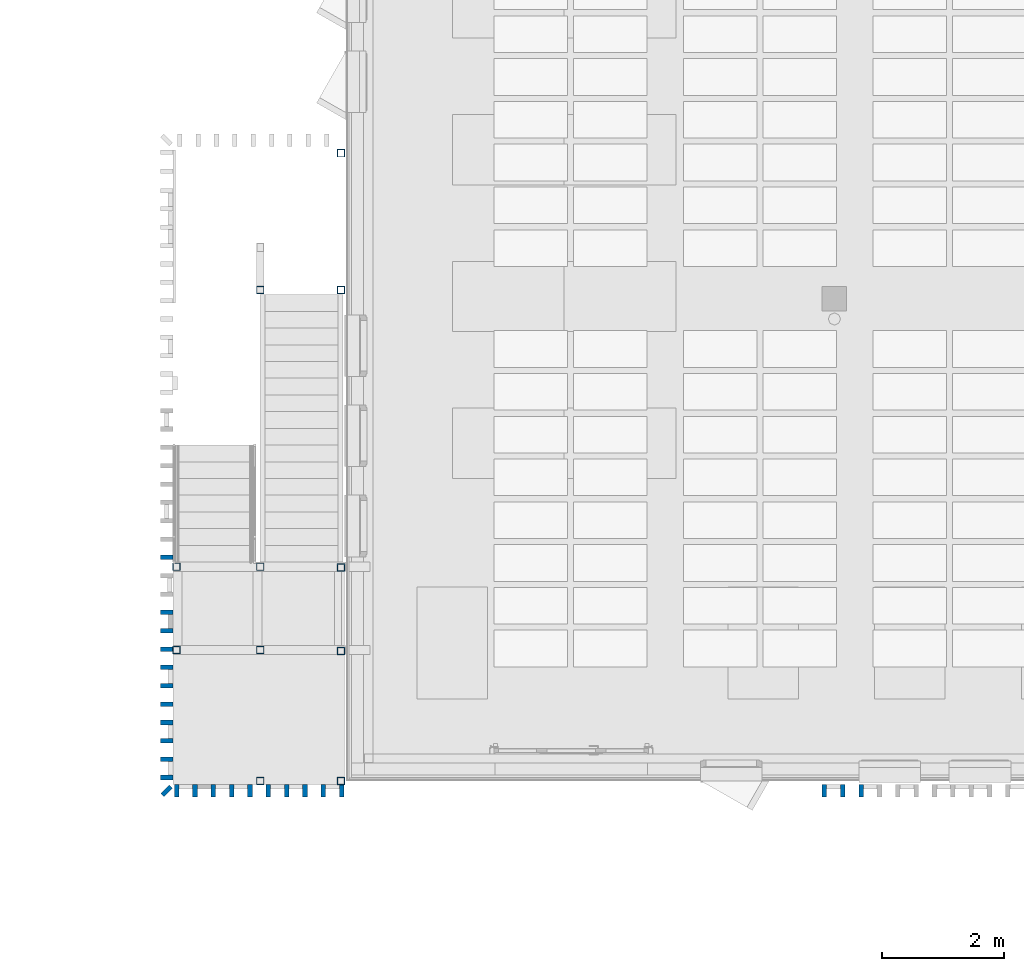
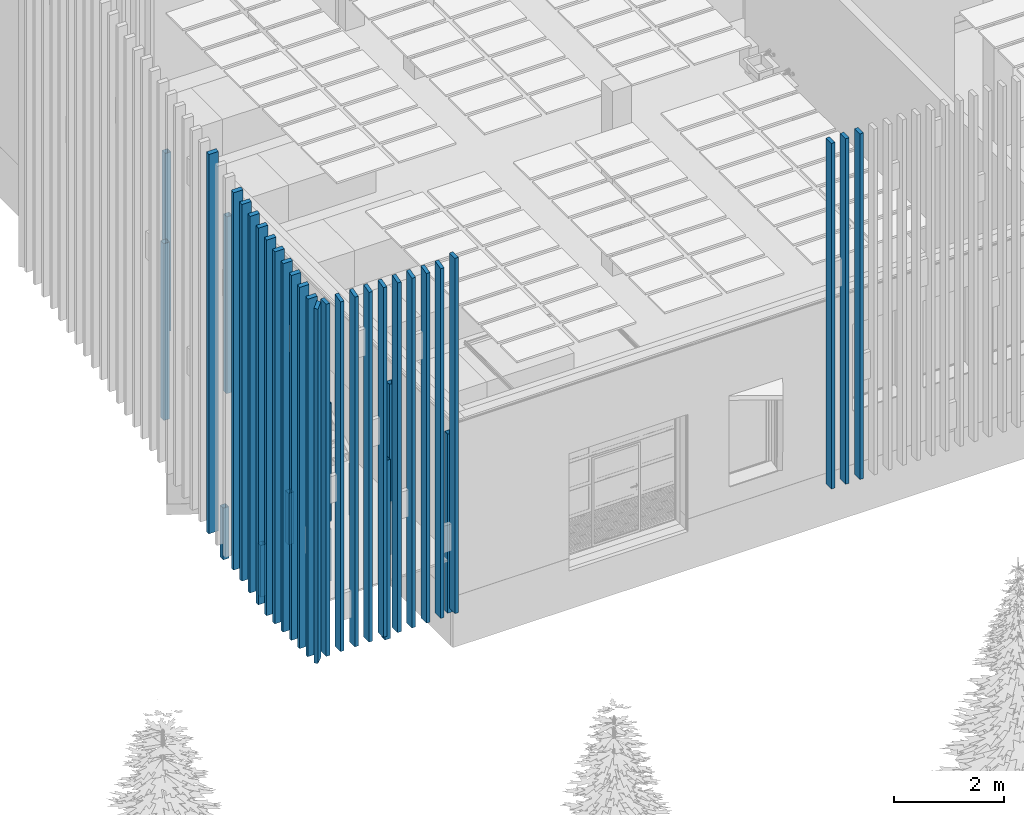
# One storey, part 1 of 301: 38 columns.
"""IFC2X3 building model written with IfcOpenShell, lengths in millimetres."""

from ifc_helpers import new_model, entity, si_unit, converted_unit, derived_unit, money_unit, direction, frame, origin_with_axes, place, context, subcontext, project, spatial, faceted_brep, source, transform, mapped, material, type_object, element, save


model = new_model("IFC2X3")

# Units and contexts
model_context = context("Model", 3, precision=0.01, world=origin_with_axes(), true_north=direction((0.0, 1.0)))
body_context = subcontext(model_context, "Body", "Model", "MODEL_VIEW")
ifc_project = project(units=[si_unit("LENGTHUNIT", "METRE", prefix="MILLI"), si_unit("AREAUNIT", "SQUARE_METRE"), si_unit("VOLUMEUNIT", "CUBIC_METRE"), converted_unit("PLANEANGLEUNIT", "DEGREE", entity("IfcPlaneAngleMeasure", 0.0174532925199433), si_unit("PLANEANGLEUNIT", "RADIAN"), dimensions=[0, 0, 0, 0, 0, 0, 0]), money_unit("EUR"), converted_unit("TIMEUNIT", "Year", entity("IfcTimeMeasure", 31557600.0), si_unit("TIMEUNIT", "SECOND"), dimensions=[0, 0, 1, 0, 0, 0, 0]), si_unit("MASSUNIT", "GRAM", prefix="KILO"), si_unit("THERMODYNAMICTEMPERATUREUNIT", "DEGREE_CELSIUS"), si_unit("LUMINOUSINTENSITYUNIT", "LUMEN"), si_unit("ENERGYUNIT", "JOULE", prefix="MEGA"), derived_unit("THERMALCONDUCTANCEUNIT", [(si_unit("POWERUNIT", "WATT"), 1), (si_unit("LENGTHUNIT", "METRE"), -1), (si_unit("THERMODYNAMICTEMPERATUREUNIT", "KELVIN"), -1)]), derived_unit("SPECIFICHEATCAPACITYUNIT", [(si_unit("ENERGYUNIT", "JOULE"), 1), (si_unit("MASSUNIT", "GRAM", prefix="KILO"), -1), (si_unit("THERMODYNAMICTEMPERATUREUNIT", "KELVIN"), -1)]), derived_unit("MASSDENSITYUNIT", [(si_unit("MASSUNIT", "GRAM", prefix="KILO"), 1), (si_unit("VOLUMEUNIT", "CUBIC_METRE"), -1)])], contexts=[model_context])

# Site, building, storey
site_placement = place(None, frame((0.0, 0.0, 8650.0), z_axis=(0.0, 0.0, 1.0), x_axis=(1.0, 0.0, 0.0)))
site = spatial("IfcSite", under=ifc_project, at=site_placement, Name="43301:001:0844", CompositionType="ELEMENT")
building_placement = place(site_placement, origin_with_axes())
building = spatial("IfcBuilding", under=site, at=building_placement, Name="Kuressaare Ametikooli tuulikute mehaanikute õppekorpus", CompositionType="ELEMENT")
storey_placement = place(building_placement, origin_with_axes())
storey = spatial("IfcBuildingStorey", under=building, at=storey_placement, Name="1.korrus", CompositionType="ELEMENT", Elevation=0.0)

# Columns
ifc_material_1 = material(Name="STEEL/S355")
column_type_1 = type_object("IfcColumnType", Name="IFC Footing Extruded", PredefinedType="NOTDEFINED")
shared_shape_1 = source(origin_with_axes(), body_context, "Body", "Brep", [
    faceted_brep([(59.99999999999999, -60.00000000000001, 1146.01999999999), (-60.00000000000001, -59.99999999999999, 1146.01999999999), (-60.00000000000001, -60.00000000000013, 0.0), (59.99999999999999, -60.00000000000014, 0.0), (60.00000000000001, 59.99999999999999, 1146.01999999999), (-59.99999999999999, 60.00000000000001, 1146.01999999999), (54.99999999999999, -55.00000000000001, 1146.01999999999), (-55.00000000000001, -54.99999999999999, 1146.01999999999), (-54.99999999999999, 55.00000000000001, 1146.01999999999), (55.00000000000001, 54.99999999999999, 1146.01999999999), (-59.99999999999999, 59.99999999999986, 0.0), (60.00000000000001, 59.99999999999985, 0.0), (54.99999999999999, -55.00000000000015, 0.0), (55.00000000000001, 54.99999999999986, 0.0), (-54.99999999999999, 54.99999999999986, 0.0), (-55.00000000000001, -55.00000000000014, 0.0)], [[[0, 1, 2, 3]], [[0, 4, 5, 1], [6, 7, 8, 9]], [[1, 5, 10, 2]], [[3, 2, 10, 11], [12, 13, 14, 15]], [[4, 0, 3, 11]], [[5, 4, 11, 10]], [[7, 6, 12, 15]], [[8, 7, 15, 14]], [[9, 8, 14, 13]], [[6, 9, 13, 12]]]),
])
for number, where, z_axis, x_axis, name in (
    (1, (87796.2273876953, 12173.83806945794, 0.0), (0.0, 0.0, 1.0), (1.0, 0.0, 0.0), "TERAS_POST"),
    (2, (85106.22662558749, 12188.83772613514, 0.0), (0.0, 0.0, 1.0), (1.0, 0.0, 0.0), "TERAS_POST"),
    (3, (85106.22662386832, 10823.83772613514, 0.0), (0.0, 0.0, 1.0), (1.0, 0.0, 0.0), "TERAS_POST"),
    (4, (87796.2273876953, 10808.83806945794, 0.0), (0.0, 0.0, 1.0), (1.0, 0.0, 0.0), "TERAS_POST"),
    (5, (86476.2273876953, 12188.83772613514, -151.1732308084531), (0.0, 0.0, 1.0), (1.0, 0.0, 0.0), "TERAS_POST"),
    (6, (86476.2273876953, 10823.83772613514, -151.1732308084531), (0.0, 0.0, 1.0), (1.0, 0.0, 0.0), "TERAS_POST"),
):
    element("IfcColumn", number, at=place(storey_placement, frame(where, z_axis=z_axis, x_axis=x_axis)), inside=storey, type_object=column_type_1, material=ifc_material_1, Name=name, context=body_context, shape_type="MappedRepresentation", body=[
        mapped(shared_shape_1, transform((0.0, 0.0, 0.0))),
    ])
shared_shape_2 = source(origin_with_axes(), body_context, "Body", "Brep", [
    faceted_brep([(59.99999999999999, -60.00000000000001, 3922.41999999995), (-60.00000000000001, -59.99999999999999, 3922.41999999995), (-60.00000000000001, -60.00000000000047, 0.0), (59.99999999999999, -60.00000000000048, 0.0), (60.00000000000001, 59.99999999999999, 3922.41999999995), (-59.99999999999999, 60.00000000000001, 3922.41999999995), (54.99999999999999, -55.00000000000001, 3922.41999999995), (-55.00000000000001, -54.99999999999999, 3922.41999999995), (-54.99999999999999, 55.00000000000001, 3922.41999999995), (55.00000000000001, 54.99999999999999, 3922.41999999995), (-59.99999999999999, 59.99999999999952, 0.0), (60.00000000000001, 59.99999999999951, 0.0), (54.99999999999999, -55.00000000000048, 0.0), (55.00000000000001, 54.99999999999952, 0.0), (-54.99999999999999, 54.99999999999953, 0.0), (-55.00000000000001, -55.00000000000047, 0.0)], [[[0, 1, 2, 3]], [[0, 4, 5, 1], [6, 7, 8, 9]], [[1, 5, 10, 2]], [[3, 2, 10, 11], [12, 13, 14, 15]], [[4, 0, 3, 11]], [[5, 4, 11, 10]], [[7, 6, 12, 15]], [[8, 7, 15, 14]], [[9, 8, 14, 13]], [[6, 9, 13, 12]]]),
])
for number, where, z_axis, x_axis, name in (
    (7, (87796.2273876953, 16713.83806945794, 0.0), (0.0, 0.0, 1.0), (1.0, 0.0, 0.0), "TERAS_POST"),
    (8, (86476.2273876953, 16713.83806945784, -132.41999999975), (0.0, 0.0, 1.0), (1.0, 0.0, 0.0), "TERAS_POST"),
):
    element("IfcColumn", number, at=place(storey_placement, frame(where, z_axis=z_axis, x_axis=x_axis)), inside=storey, type_object=column_type_1, material=ifc_material_1, Name=name, context=body_context, shape_type="MappedRepresentation", body=[
        mapped(shared_shape_2, transform((0.0, 0.0, 0.0))),
    ])
shared_shape_3 = source(origin_with_axes(), body_context, "Body", "Brep", [
    faceted_brep([(59.99999999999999, -60.00000000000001, 3972.4199999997), (-60.00000000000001, -59.99999999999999, 3972.4199999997), (-60.00000000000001, -60.00000000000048, -3.002043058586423e-10), (59.99999999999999, -60.00000000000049, -3.002043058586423e-10), (60.00000000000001, 59.99999999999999, 3972.4199999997), (-59.99999999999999, 60.00000000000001, 3972.4199999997), (54.99999999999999, -55.00000000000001, 3972.4199999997), (-55.00000000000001, -54.99999999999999, 3972.4199999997), (-54.99999999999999, 55.00000000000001, 3972.4199999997), (55.00000000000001, 54.99999999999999, 3972.4199999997), (-59.99999999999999, 59.99999999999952, -3.002043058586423e-10), (60.00000000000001, 59.9999999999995, -3.002043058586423e-10), (54.99999999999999, -55.00000000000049, -3.002043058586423e-10), (55.00000000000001, 54.99999999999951, -3.002043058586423e-10), (-54.99999999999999, 54.99999999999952, -3.002043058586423e-10), (-55.00000000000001, -55.00000000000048, -3.002043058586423e-10)], [[[0, 1, 2, 3]], [[0, 4, 5, 1], [6, 7, 8, 9]], [[1, 5, 10, 2]], [[3, 2, 10, 11], [12, 13, 14, 15]], [[4, 0, 3, 11]], [[5, 4, 11, 10]], [[7, 6, 12, 15]], [[8, 7, 15, 14]], [[9, 8, 14, 13]], [[6, 9, 13, 12]]]),
])
for number, where, z_axis, x_axis, name in (
    (9, (87796.2273876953, 8683.838538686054, 0.0), (0.0, 0.0, 1.0), (1.0, 0.0, 0.0), "TERAS_POST"),
    (10, (86476.2273876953, 8683.838538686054, -132.4199999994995), (0.0, 0.0, 1.0), (1.0, 0.0, 0.0), "TERAS_POST"),
    (11, (87796.2273876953, 18953.07806945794, 0.0), (0.0, 0.0, 1.0), (1.0, 0.0, 0.0), "TERAS_POST"),
):
    element("IfcColumn", number, at=place(storey_placement, frame(where, z_axis=z_axis, x_axis=x_axis)), inside=storey, type_object=column_type_1, material=ifc_material_1, Name=name, context=body_context, shape_type="MappedRepresentation", body=[
        mapped(shared_shape_3, transform((0.0, 0.0, 0.0))),
    ])
ifc_material_2 = material(Name="GENEERILINE - KONSTRUKTRIOON")
column_type_2 = type_object("IfcColumnType", Name="GENEERILINE - KONSTRUKTRIOON 200 x 75", PredefinedType="NOTDEFINED")
column_1_placement = place(storey_placement, frame((95705.56858359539, 8523.838490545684, 100.0000000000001), z_axis=(0.0, 0.0, 1.0), x_axis=(0.0, -1.0, 0.0)))
element("IfcColumn", 12, at=column_1_placement, inside=storey, type_object=column_type_2, material=ifc_material_2, Name="Varjestus_viltu", context=body_context, shape_type="Brep", body=[
    faceted_brep([(-99.99999999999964, -37.50000000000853, 7664.185442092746), (-99.99999999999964, -37.50000000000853, 0.0), (99.99999999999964, -37.50000000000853, 0.0), (99.99999999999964, -37.50000000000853, 7664.185442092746), (-99.99999999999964, 37.49999999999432, 7670.74709185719), (-99.99999999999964, 37.49999999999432, 0.0), (99.99999999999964, 37.49999999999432, 0.0), (99.99999999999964, 37.49999999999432, 7670.74709185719)], [[[0, 1, 2, 3]], [[4, 5, 1, 0]], [[2, 1, 5, 6]], [[3, 2, 6, 7]], [[4, 0, 3, 7]], [[7, 6, 5, 4]]]),
])
column_2_placement = place(storey_placement, frame((87808.75964555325, 8523.838538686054, 100.0000000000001), z_axis=(0.0, 0.0, 1.0), x_axis=(0.0, -1.0, 0.0)))
element("IfcColumn", 13, at=column_2_placement, inside=storey, type_object=column_type_2, material=ifc_material_2, Name="Varjestus_viltu", context=body_context, shape_type="Brep", body=[
    faceted_brep([(-99.99999999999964, -37.50000000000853, 7881.100870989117), (-99.99999999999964, -37.50000000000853, 0.0), (99.99999999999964, -37.50000000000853, 0.0), (99.99999999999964, -37.50000000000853, 7881.100870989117), (-99.99999999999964, 37.49999999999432, 7887.662520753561), (-99.99999999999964, 37.49999999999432, 0.0), (99.99999999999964, 37.49999999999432, 0.0), (99.99999999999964, 37.49999999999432, 7887.662520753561)], [[[0, 1, 2, 3]], [[4, 5, 1, 0]], [[2, 1, 5, 6]], [[3, 2, 6, 7]], [[4, 0, 3, 7]], [[7, 6, 5, 4]]]),
])
column_3_placement = place(storey_placement, frame((87508.75964555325, 8523.838538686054, 100.0000000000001), z_axis=(0.0, 0.0, 1.0), x_axis=(0.0, -1.0, 0.0)))
element("IfcColumn", 14, at=column_3_placement, inside=storey, type_object=column_type_2, material=ifc_material_2, Name="Varjestus_viltu", context=body_context, shape_type="Brep", body=[
    faceted_brep([(-99.99999999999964, -37.50000000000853, 7810.350083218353), (-99.99999999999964, 37.49999999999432, 7810.350080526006), (-99.99999999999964, 37.49999999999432, 0.0), (-99.99999999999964, -37.50000000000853, 0.0), (99.99999999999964, 37.49999999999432, 7756.760242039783), (99.99999999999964, -37.50000000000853, 7756.76024473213), (99.99999999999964, 37.49999999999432, 0.0), (99.99999999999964, -37.50000000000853, 0.0)], [[[0, 1, 2, 3]], [[4, 1, 0, 5]], [[1, 4, 6, 2]], [[6, 7, 3, 2]], [[5, 0, 3, 7]], [[4, 5, 7, 6]]]),
])
column_4_placement = place(storey_placement, frame((84943.45380628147, 8522.112257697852, 0.0), z_axis=(0.0, 0.0, 1.0), x_axis=(-0.7071067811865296, -0.7071067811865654, 0.0)))
element("IfcColumn", 15, at=column_4_placement, inside=storey, type_object=column_type_2, material=ifc_material_2, Name="Varjestus_viltu", context=body_context, shape_type="Brep", body=[
    faceted_brep([(-99.99999999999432, -37.49999999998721, 7909.144642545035), (-99.99999999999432, 37.50000000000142, 7894.934488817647), (-99.99999999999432, 37.50000000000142, 0.0), (-99.99999999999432, -37.49999999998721, 0.0), (99.99999999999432, 37.50000000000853, 7857.040755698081), (100.0000000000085, -37.49999999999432, 7871.250909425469), (99.99999999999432, 37.50000000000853, 0.0), (100.0000000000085, -37.49999999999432, 0.0)], [[[0, 1, 2, 3]], [[4, 1, 0, 5]], [[1, 4, 6, 2]], [[6, 7, 3, 2]], [[5, 0, 3, 7]], [[4, 5, 7, 6]]]),
])
column_5_placement = place(storey_placement, frame((84946.22662386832, 12340.41808387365, 542.6121992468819), z_axis=(0.0, 0.0, 1.0), x_axis=(-1.0, 0.0, 0.0)))
element("IfcColumn", 16, at=column_5_placement, inside=storey, type_object=column_type_2, material=ifc_material_2, Name="Varjestus_viltu", context=body_context, shape_type="Brep", body=[
    faceted_brep([(100.0000000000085, 37.49999999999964, 8414.133772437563), (100.0000000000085, 37.49999999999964, 0.0), (-99.99999999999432, 37.49999999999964, 0.0), (-99.99999999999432, 37.49999999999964, 8414.133772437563), (100.0000000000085, -37.49999999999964, 8434.229961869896), (100.0000000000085, -37.49999999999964, 0.0), (-99.99999999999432, -37.49999999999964, 0.0), (-99.99999999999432, -37.49999999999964, 8434.229961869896)], [[[0, 1, 2, 3]], [[4, 5, 1, 0]], [[2, 1, 5, 6]], [[3, 2, 6, 7]], [[4, 0, 3, 7]], [[7, 6, 5, 4]]]),
])
column_6_placement = place(storey_placement, frame((84946.22662386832, 10540.41808387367, 60.29024436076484), z_axis=(0.0, 0.0, 1.0), x_axis=(-1.0, 0.0, 0.0)))
element("IfcColumn", 17, at=column_6_placement, inside=storey, type_object=column_type_2, material=ifc_material_2, Name="Varjestus_viltu", context=body_context, shape_type="Brep", body=[
    faceted_brep([(100.0000000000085, -37.49999999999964, 8373.65396917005), (-99.99999999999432, -37.49999999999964, 8373.653961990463), (-99.99999999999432, -37.49999999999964, 0.0), (100.0000000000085, -37.49999999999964, 0.0), (-99.99999999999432, 37.49999999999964, 8353.557772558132), (100.0000000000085, 37.49999999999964, 8353.55777973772), (-99.99999999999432, 37.49999999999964, 0.0), (100.0000000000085, 37.49999999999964, 0.0)], [[[0, 1, 2, 3]], [[4, 1, 0, 5]], [[1, 4, 6, 2]], [[2, 6, 7, 3]], [[5, 0, 3, 7]], [[4, 5, 7, 6]]]),
])
column_7_placement = place(storey_placement, frame((84946.22662386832, 10840.41808387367, 140.6772368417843), z_axis=(0.0, 0.0, 1.0), x_axis=(-1.0, 0.0, 0.0)))
element("IfcColumn", 18, at=column_7_placement, inside=storey, type_object=column_type_2, material=ifc_material_2, Name="Varjestus_viltu", context=body_context, shape_type="Brep", body=[
    faceted_brep([(100.0000000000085, -37.49999999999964, 8373.651734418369), (-99.99999999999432, -37.49999999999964, 8373.65172723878), (-99.99999999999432, -37.49999999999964, 0.0), (100.0000000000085, -37.49999999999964, 0.0), (-99.99999999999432, 37.49999999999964, 8353.555537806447), (100.0000000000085, 37.49999999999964, 8353.555544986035), (-99.99999999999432, 37.49999999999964, 0.0), (100.0000000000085, 37.49999999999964, 0.0)], [[[0, 1, 2, 3]], [[4, 1, 0, 5]], [[1, 4, 6, 2]], [[2, 6, 7, 3]], [[5, 0, 3, 7]], [[4, 5, 7, 6]]]),
])
column_8_placement = place(storey_placement, frame((84946.22662386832, 11140.41808387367, 221.0642293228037), z_axis=(0.0, 0.0, 1.0), x_axis=(-1.0, 0.0, 0.0)))
element("IfcColumn", 19, at=column_8_placement, inside=storey, type_object=column_type_2, material=ifc_material_2, Name="Varjestus_viltu", context=body_context, shape_type="Brep", body=[
    faceted_brep([(100.0000000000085, -37.49999999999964, 8373.649499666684), (-99.99999999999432, -37.49999999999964, 8373.649492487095), (-99.99999999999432, -37.49999999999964, 0.0), (100.0000000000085, -37.49999999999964, 0.0), (-99.99999999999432, 37.49999999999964, 8353.553303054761), (100.0000000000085, 37.49999999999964, 8353.553310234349), (-99.99999999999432, 37.49999999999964, 0.0), (100.0000000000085, 37.49999999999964, 0.0)], [[[0, 1, 2, 3]], [[4, 1, 0, 5]], [[1, 4, 6, 2]], [[2, 6, 7, 3]], [[5, 0, 3, 7]], [[4, 5, 7, 6]]]),
])
column_9_placement = place(storey_placement, frame((84946.22662386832, 11440.41808387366, 285.5243114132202), z_axis=(0.0, 0.0, 1.0), x_axis=(-1.0, 0.0, 0.0)))
element("IfcColumn", 20, at=column_9_placement, inside=storey, type_object=column_type_2, material=ifc_material_2, Name="Varjestus_viltu", context=body_context, shape_type="Brep", body=[
    faceted_brep([(100.0000000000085, -37.49999999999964, 8389.574175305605), (-99.99999999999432, -37.49999999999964, 8389.574168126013), (-99.99999999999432, -37.49999999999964, 0.0), (100.0000000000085, -37.49999999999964, 0.0), (-99.99999999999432, 37.49999999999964, 8369.477978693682), (100.0000000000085, 37.49999999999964, 8369.477985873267), (-99.99999999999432, 37.49999999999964, 0.0), (100.0000000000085, 37.49999999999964, 0.0)], [[[0, 1, 2, 3]], [[4, 1, 0, 5]], [[1, 4, 6, 2]], [[2, 6, 7, 3]], [[5, 0, 3, 7]], [[4, 5, 7, 6]]]),
])
column_10_placement = place(storey_placement, frame((84946.22662386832, 9940.418083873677, 0.0), z_axis=(0.0, 0.0, 1.0), x_axis=(-1.0, 0.0, 0.0)))
element("IfcColumn", 21, at=column_10_placement, inside=storey, type_object=column_type_2, material=ifc_material_2, Name="Varjestus_viltu", context=body_context, shape_type="Brep", body=[
    faceted_brep([(100.0000000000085, -37.49999999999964, 8273.174698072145), (-99.99999999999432, -37.49999999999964, 8273.174690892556), (-99.99999999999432, -37.49999999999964, 0.0), (100.0000000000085, -37.49999999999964, 0.0), (-99.99999999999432, 37.49999999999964, 8253.078501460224), (100.0000000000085, 37.49999999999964, 8253.07850863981), (-99.99999999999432, 37.49999999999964, 0.0), (100.0000000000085, 37.49999999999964, 0.0)], [[[0, 1, 2, 3]], [[4, 1, 0, 5]], [[1, 4, 6, 2]], [[2, 6, 7, 3]], [[5, 0, 3, 7]], [[4, 5, 7, 6]]]),
])
column_11_placement = place(storey_placement, frame((84946.22662386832, 10240.41808387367, 0.0), z_axis=(0.0, 0.0, 1.0), x_axis=(-1.0, 0.0, 0.0)))
element("IfcColumn", 22, at=column_11_placement, inside=storey, type_object=column_type_2, material=ifc_material_2, Name="Varjestus_viltu", context=body_context, shape_type="Brep", body=[
    faceted_brep([(100.0000000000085, -37.49999999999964, 8353.559455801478), (-99.99999999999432, -37.49999999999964, 8353.559448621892), (-99.99999999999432, -37.49999999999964, 0.0), (100.0000000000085, -37.49999999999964, 0.0), (-99.99999999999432, 37.49999999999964, 8333.46325918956), (100.0000000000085, 37.49999999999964, 8333.463266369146), (-99.99999999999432, 37.49999999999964, 0.0), (100.0000000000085, 37.49999999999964, 0.0)], [[[0, 1, 2, 3]], [[4, 1, 0, 5]], [[1, 4, 6, 2]], [[2, 6, 7, 3]], [[5, 0, 3, 7]], [[4, 5, 7, 6]]]),
])
column_12_placement = place(storey_placement, frame((84946.22662386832, 9340.418083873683, 0.0), z_axis=(0.0, 0.0, 1.0), x_axis=(-1.0, 0.0, 0.0)))
element("IfcColumn", 23, at=column_12_placement, inside=storey, type_object=column_type_2, material=ifc_material_2, Name="Varjestus_viltu", context=body_context, shape_type="Brep", body=[
    faceted_brep([(100.0000000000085, -37.49999999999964, 8112.405182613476), (-99.99999999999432, -37.49999999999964, 8112.405175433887), (-99.99999999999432, -37.49999999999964, 0.0), (100.0000000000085, -37.49999999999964, 0.0), (-99.99999999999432, 37.49999999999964, 8092.308986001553), (100.0000000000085, 37.49999999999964, 8092.308993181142), (-99.99999999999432, 37.49999999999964, 0.0), (100.0000000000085, 37.49999999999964, 0.0)], [[[0, 1, 2, 3]], [[4, 1, 0, 5]], [[1, 4, 6, 2]], [[2, 6, 7, 3]], [[5, 0, 3, 7]], [[4, 5, 7, 6]]]),
])
column_13_placement = place(storey_placement, frame((84946.22662386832, 9640.41808387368, 0.0), z_axis=(0.0, 0.0, 1.0), x_axis=(-1.0, 0.0, 0.0)))
element("IfcColumn", 24, at=column_13_placement, inside=storey, type_object=column_type_2, material=ifc_material_2, Name="Varjestus_viltu", context=body_context, shape_type="Brep", body=[
    faceted_brep([(100.0000000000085, -37.49999999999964, 8192.789940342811), (-99.99999999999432, -37.49999999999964, 8192.789933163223), (-99.99999999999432, -37.49999999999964, 0.0), (100.0000000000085, -37.49999999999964, 0.0), (-99.99999999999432, 37.49999999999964, 8172.693743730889), (100.0000000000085, 37.49999999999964, 8172.693750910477), (-99.99999999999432, 37.49999999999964, 0.0), (100.0000000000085, 37.49999999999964, 0.0)], [[[0, 1, 2, 3]], [[4, 1, 0, 5]], [[1, 4, 6, 2]], [[2, 6, 7, 3]], [[5, 0, 3, 7]], [[4, 5, 7, 6]]]),
])
column_14_placement = place(storey_placement, frame((84946.22662386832, 8740.418083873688, 0.0), z_axis=(0.0, 0.0, 1.0), x_axis=(-1.0, 0.0, 0.0)))
element("IfcColumn", 25, at=column_14_placement, inside=storey, type_object=column_type_2, material=ifc_material_2, Name="Varjestus_viltu", context=body_context, shape_type="Brep", body=[
    faceted_brep([(100.0000000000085, -37.49999999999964, 7951.635667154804), (-99.99999999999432, -37.49999999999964, 7951.635659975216), (-99.99999999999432, -37.49999999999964, 0.0), (100.0000000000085, -37.49999999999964, 0.0), (-99.99999999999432, 37.49999999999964, 7931.539470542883), (100.0000000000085, 37.49999999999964, 7931.53947772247), (-99.99999999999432, 37.49999999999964, 0.0), (100.0000000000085, 37.49999999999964, 0.0)], [[[0, 1, 2, 3]], [[4, 1, 0, 5]], [[1, 4, 6, 2]], [[2, 6, 7, 3]], [[5, 0, 3, 7]], [[4, 5, 7, 6]]]),
])
column_15_placement = place(storey_placement, frame((84946.22662386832, 9040.418083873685, 0.0), z_axis=(0.0, 0.0, 1.0), x_axis=(-1.0, 0.0, 0.0)))
element("IfcColumn", 26, at=column_15_placement, inside=storey, type_object=column_type_2, material=ifc_material_2, Name="Varjestus_viltu", context=body_context, shape_type="Brep", body=[
    faceted_brep([(100.0000000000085, -37.49999999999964, 8032.020424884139), (-99.99999999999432, -37.49999999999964, 8032.020417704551), (-99.99999999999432, -37.49999999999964, 0.0), (100.0000000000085, -37.49999999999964, 0.0), (-99.99999999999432, 37.49999999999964, 8011.92422827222), (100.0000000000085, 37.49999999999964, 8011.924235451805), (-99.99999999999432, 37.49999999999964, 0.0), (100.0000000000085, 37.49999999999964, 0.0)], [[[0, 1, 2, 3]], [[4, 1, 0, 5]], [[1, 4, 6, 2]], [[2, 6, 7, 3]], [[5, 0, 3, 7]], [[4, 5, 7, 6]]]),
])
column_16_placement = place(storey_placement, frame((85408.75964555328, 8523.838538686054, 99.99999999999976), z_axis=(0.0, 0.0, 1.0), x_axis=(0.0, -1.0, 0.0)))
element("IfcColumn", 27, at=column_16_placement, inside=storey, type_object=column_type_2, material=ifc_material_2, Name="Varjestus_viltu", context=body_context, shape_type="Brep", body=[
    faceted_brep([(-99.99999999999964, -37.50000000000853, 7810.35015860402), (-99.99999999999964, 37.49999999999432, 7810.350155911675), (-99.99999999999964, 37.49999999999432, 0.0), (-99.99999999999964, -37.50000000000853, 0.0), (99.99999999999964, 37.49999999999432, 7756.760317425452), (99.99999999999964, -37.50000000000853, 7756.760320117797), (99.99999999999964, 37.49999999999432, 0.0), (99.99999999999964, -37.50000000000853, 0.0)], [[[0, 1, 2, 3]], [[4, 1, 0, 5]], [[1, 4, 6, 2]], [[6, 7, 3, 2]], [[5, 0, 3, 7]], [[4, 5, 7, 6]]]),
])
column_17_placement = place(storey_placement, frame((85708.75964555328, 8523.838538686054, 100.0000000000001), z_axis=(0.0, 0.0, 1.0), x_axis=(0.0, -1.0, 0.0)))
element("IfcColumn", 28, at=column_17_placement, inside=storey, type_object=column_type_2, material=ifc_material_2, Name="Varjestus_viltu", context=body_context, shape_type="Brep", body=[
    faceted_brep([(-99.99999999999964, -37.50000000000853, 7810.35014783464), (-99.99999999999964, 37.49999999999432, 7810.350145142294), (-99.99999999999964, 37.49999999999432, 0.0), (-99.99999999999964, -37.50000000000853, 0.0), (99.99999999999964, 37.49999999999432, 7756.76030665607), (99.99999999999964, -37.50000000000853, 7756.760309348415), (99.99999999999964, 37.49999999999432, 0.0), (99.99999999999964, -37.50000000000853, 0.0)], [[[0, 1, 2, 3]], [[4, 1, 0, 5]], [[1, 4, 6, 2]], [[6, 7, 3, 2]], [[5, 0, 3, 7]], [[4, 5, 7, 6]]]),
])
column_18_placement = place(storey_placement, frame((86008.75964555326, 8523.838538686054, 100.0000000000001), z_axis=(0.0, 0.0, 1.0), x_axis=(0.0, -1.0, 0.0)))
element("IfcColumn", 29, at=column_18_placement, inside=storey, type_object=column_type_2, material=ifc_material_2, Name="Varjestus_viltu", context=body_context, shape_type="Brep", body=[
    faceted_brep([(-99.99999999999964, -37.50000000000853, 7810.350137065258), (-99.99999999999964, 37.49999999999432, 7810.350134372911), (-99.99999999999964, 37.49999999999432, 0.0), (-99.99999999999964, -37.50000000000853, 0.0), (99.99999999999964, 37.49999999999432, 7756.760295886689), (99.99999999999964, -37.50000000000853, 7756.760298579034), (99.99999999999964, 37.49999999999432, 0.0), (99.99999999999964, -37.50000000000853, 0.0)], [[[0, 1, 2, 3]], [[4, 1, 0, 5]], [[1, 4, 6, 2]], [[6, 7, 3, 2]], [[5, 0, 3, 7]], [[4, 5, 7, 6]]]),
])
column_19_placement = place(storey_placement, frame((86608.75964555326, 8523.838538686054, 100.0000000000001), z_axis=(0.0, 0.0, 1.0), x_axis=(0.0, -1.0, 0.0)))
element("IfcColumn", 30, at=column_19_placement, inside=storey, type_object=column_type_2, material=ifc_material_2, Name="Varjestus_viltu", context=body_context, shape_type="Brep", body=[
    faceted_brep([(-99.99999999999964, -37.50000000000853, 7810.350115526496), (-99.99999999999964, 37.49999999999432, 7810.35011283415), (-99.99999999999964, 37.49999999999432, 0.0), (-99.99999999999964, -37.50000000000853, 0.0), (99.99999999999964, 37.49999999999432, 7756.760274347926), (99.99999999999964, -37.50000000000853, 7756.760277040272), (99.99999999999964, 37.49999999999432, 0.0), (99.99999999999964, -37.50000000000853, 0.0)], [[[0, 1, 2, 3]], [[4, 1, 0, 5]], [[1, 4, 6, 2]], [[6, 7, 3, 2]], [[5, 0, 3, 7]], [[4, 5, 7, 6]]]),
])
column_20_placement = place(storey_placement, frame((86308.75964555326, 8523.838538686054, 99.99999999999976), z_axis=(0.0, 0.0, 1.0), x_axis=(0.0, -1.0, 0.0)))
element("IfcColumn", 31, at=column_20_placement, inside=storey, type_object=column_type_2, material=ifc_material_2, Name="Varjestus_viltu", context=body_context, shape_type="Brep", body=[
    faceted_brep([(-99.99999999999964, -37.50000000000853, 7810.350126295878), (-99.99999999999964, 37.49999999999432, 7810.350123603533), (-99.99999999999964, 37.49999999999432, 0.0), (-99.99999999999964, -37.50000000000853, 0.0), (99.99999999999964, 37.49999999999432, 7756.760285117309), (99.99999999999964, -37.50000000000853, 7756.760287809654), (99.99999999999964, 37.49999999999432, 0.0), (99.99999999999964, -37.50000000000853, 0.0)], [[[0, 1, 2, 3]], [[4, 1, 0, 5]], [[1, 4, 6, 2]], [[6, 7, 3, 2]], [[5, 0, 3, 7]], [[4, 5, 7, 6]]]),
])
column_21_placement = place(storey_placement, frame((86908.75964555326, 8523.838538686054, 100.0000000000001), z_axis=(0.0, 0.0, 1.0), x_axis=(0.0, -1.0, 0.0)))
element("IfcColumn", 32, at=column_21_placement, inside=storey, type_object=column_type_2, material=ifc_material_2, Name="Varjestus_viltu", context=body_context, shape_type="Brep", body=[
    faceted_brep([(-99.99999999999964, -37.50000000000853, 7810.350104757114), (-99.99999999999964, 37.49999999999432, 7810.35010206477), (-99.99999999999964, 37.49999999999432, 0.0), (-99.99999999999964, -37.50000000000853, 0.0), (99.99999999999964, 37.49999999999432, 7756.760263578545), (99.99999999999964, -37.50000000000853, 7756.76026627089), (99.99999999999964, 37.49999999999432, 0.0), (99.99999999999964, -37.50000000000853, 0.0)], [[[0, 1, 2, 3]], [[4, 1, 0, 5]], [[1, 4, 6, 2]], [[6, 7, 3, 2]], [[5, 0, 3, 7]], [[4, 5, 7, 6]]]),
])
column_22_placement = place(storey_placement, frame((87208.75964555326, 8523.838538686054, 100.0000000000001), z_axis=(0.0, 0.0, 1.0), x_axis=(0.0, -1.0, 0.0)))
element("IfcColumn", 33, at=column_22_placement, inside=storey, type_object=column_type_2, material=ifc_material_2, Name="Varjestus_viltu", context=body_context, shape_type="Brep", body=[
    faceted_brep([(-99.99999999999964, -37.50000000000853, 7810.350093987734), (-99.99999999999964, 37.49999999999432, 7810.350091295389), (-99.99999999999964, 37.49999999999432, 0.0), (-99.99999999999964, -37.50000000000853, 0.0), (99.99999999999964, 37.49999999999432, 7756.760252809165), (99.99999999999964, -37.50000000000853, 7756.760255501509), (99.99999999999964, 37.49999999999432, 0.0), (99.99999999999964, -37.50000000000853, 0.0)], [[[0, 1, 2, 3]], [[4, 1, 0, 5]], [[1, 4, 6, 2]], [[6, 7, 3, 2]], [[5, 0, 3, 7]], [[4, 5, 7, 6]]]),
])
for number, where, z_axis, x_axis in (
    (34, (96005.56858359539, 8523.838490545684, 100.0000000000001), (0.0, 0.0, 1.0), (0.0, -1.0, 0.0)),
    (35, (96305.56858359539, 8523.838490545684, 100.0000000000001), (0.0, 0.0, 1.0), (0.0, -1.0, 0.0)),
):
    element("IfcColumn", number, at=place(storey_placement, frame(where, z_axis=z_axis, x_axis=x_axis)), inside=storey, type_object=column_type_2, material=ifc_material_2, Name="Varjestus_viltu", context=body_context, shape_type="Brep", body=[
        faceted_brep([(-99.99999999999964, -37.50000000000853, 7664.185442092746), (-99.99999999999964, -37.50000000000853, 0.0), (99.99999999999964, -37.50000000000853, 0.0), (99.99999999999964, -37.50000000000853, 7664.185442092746), (-99.99999999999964, 37.49999999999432, 7670.74709185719), (-99.99999999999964, 37.49999999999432, 0.0), (99.99999999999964, 37.49999999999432, 0.0), (99.99999999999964, 37.49999999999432, 7670.74709185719)], [[[0, 1, 2, 3]], [[4, 5, 1, 0]], [[2, 1, 5, 6]], [[3, 2, 6, 7]], [[4, 0, 3, 7]], [[7, 6, 5, 4]]]),
    ])
column_23_placement = place(storey_placement, frame((85108.75964555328, 8523.838538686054, 99.99999999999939), z_axis=(0.0, 0.0, 1.0), x_axis=(0.0, -1.0, 0.0)))
element("IfcColumn", 36, at=column_23_placement, inside=storey, type_object=column_type_2, material=ifc_material_2, Name="Varjestus_viltu", context=body_context, shape_type="Brep", body=[
    faceted_brep([(-99.99999999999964, -37.50000000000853, 7808.798350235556), (-99.99999999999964, -37.50000000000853, 0.0), (99.99999999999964, -37.50000000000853, 0.0), (99.99999999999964, -37.50000000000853, 7808.798350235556), (-99.99999999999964, 37.49999999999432, 7815.36), (-99.99999999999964, 37.49999999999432, 0.0), (99.99999999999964, 37.49999999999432, 0.0), (99.99999999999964, 37.49999999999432, 7815.36)], [[[0, 1, 2, 3]], [[4, 5, 1, 0]], [[2, 1, 5, 6]], [[3, 2, 6, 7]], [[4, 0, 3, 7]], [[7, 6, 5, 4]]]),
])
column_24_placement = place(storey_placement, frame((86476.2273876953, 10823.83772613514, 1161.18000000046), z_axis=(0.0, 0.0, 1.0), x_axis=(1.0, 0.0, 0.0)))
element("IfcColumn", 37, at=column_24_placement, inside=storey, type_object=column_type_1, material=ifc_material_1, Name="TERAS_POST", context=body_context, shape_type="Brep", body=[
    faceted_brep([(59.99999999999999, -60.00000000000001, 2628.81999999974), (-60.00000000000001, -59.99999999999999, 2628.81999999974), (-60.00000000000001, -60.00000000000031, -2.602362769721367e-10), (59.99999999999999, -60.00000000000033, -2.602362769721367e-10), (60.00000000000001, 59.99999999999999, 2628.81999999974), (-59.99999999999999, 60.00000000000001, 2628.81999999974), (54.99999999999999, -55.00000000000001, 2628.81999999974), (-55.00000000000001, -54.99999999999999, 2628.81999999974), (-54.99999999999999, 55.00000000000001, 2628.81999999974), (55.00000000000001, 54.99999999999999, 2628.81999999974), (-59.99999999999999, 59.99999999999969, -2.602362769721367e-10), (60.00000000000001, 59.99999999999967, -2.602362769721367e-10), (54.99999999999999, -55.00000000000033, -2.602362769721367e-10), (55.00000000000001, 54.99999999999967, -2.602362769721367e-10), (-54.99999999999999, 54.99999999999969, -2.602362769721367e-10), (-55.00000000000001, -55.00000000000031, -2.602362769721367e-10)], [[[0, 1, 2, 3]], [[0, 4, 5, 1], [6, 7, 8, 9]], [[1, 5, 10, 2]], [[3, 2, 10, 11], [12, 13, 14, 15]], [[4, 0, 3, 11]], [[5, 4, 11, 10]], [[7, 6, 12, 15]], [[8, 7, 15, 14]], [[9, 8, 14, 13]], [[6, 9, 13, 12]]]),
])
column_25_placement = place(storey_placement, frame((87796.2273876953, 10808.83806945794, 1161.2), z_axis=(0.0, 0.0, 1.0), x_axis=(1.0, 0.0, 0.0)))
element("IfcColumn", 38, at=column_25_placement, inside=storey, type_object=column_type_1, material=ifc_material_1, Name="TERAS_POST", context=body_context, shape_type="Brep", body=[
    faceted_brep([(59.99999999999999, -60.00000000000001, 2626.4), (-60.00000000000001, -59.99999999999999, 2626.4), (-60.00000000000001, -60.00000000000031, 0.0), (59.99999999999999, -60.00000000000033, 0.0), (60.00000000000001, 59.99999999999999, 2626.4), (-59.99999999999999, 60.00000000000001, 2626.4), (54.99999999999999, -55.00000000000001, 2626.4), (-55.00000000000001, -54.99999999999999, 2626.4), (-54.99999999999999, 55.00000000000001, 2626.4), (55.00000000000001, 54.99999999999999, 2626.4), (-59.99999999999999, 59.99999999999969, 0.0), (60.00000000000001, 59.99999999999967, 0.0), (54.99999999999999, -55.00000000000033, 0.0), (55.00000000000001, 54.99999999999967, 0.0), (-54.99999999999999, 54.99999999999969, 0.0), (-55.00000000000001, -55.00000000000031, 0.0)], [[[0, 1, 2, 3]], [[0, 4, 5, 1], [6, 7, 8, 9]], [[1, 5, 10, 2]], [[3, 2, 10, 11], [12, 13, 14, 15]], [[4, 0, 3, 11]], [[5, 4, 11, 10]], [[7, 6, 12, 15]], [[8, 7, 15, 14]], [[9, 8, 14, 13]], [[6, 9, 13, 12]]]),
])

save(model, "model.ifc")
